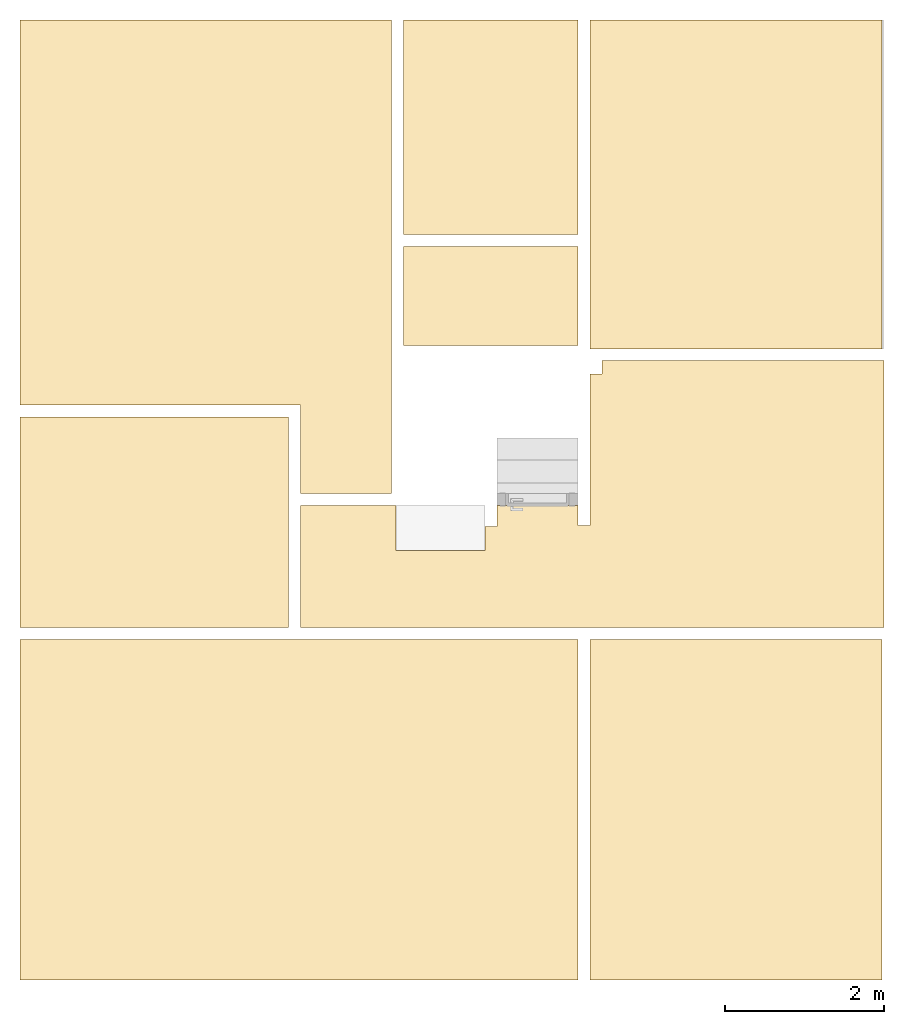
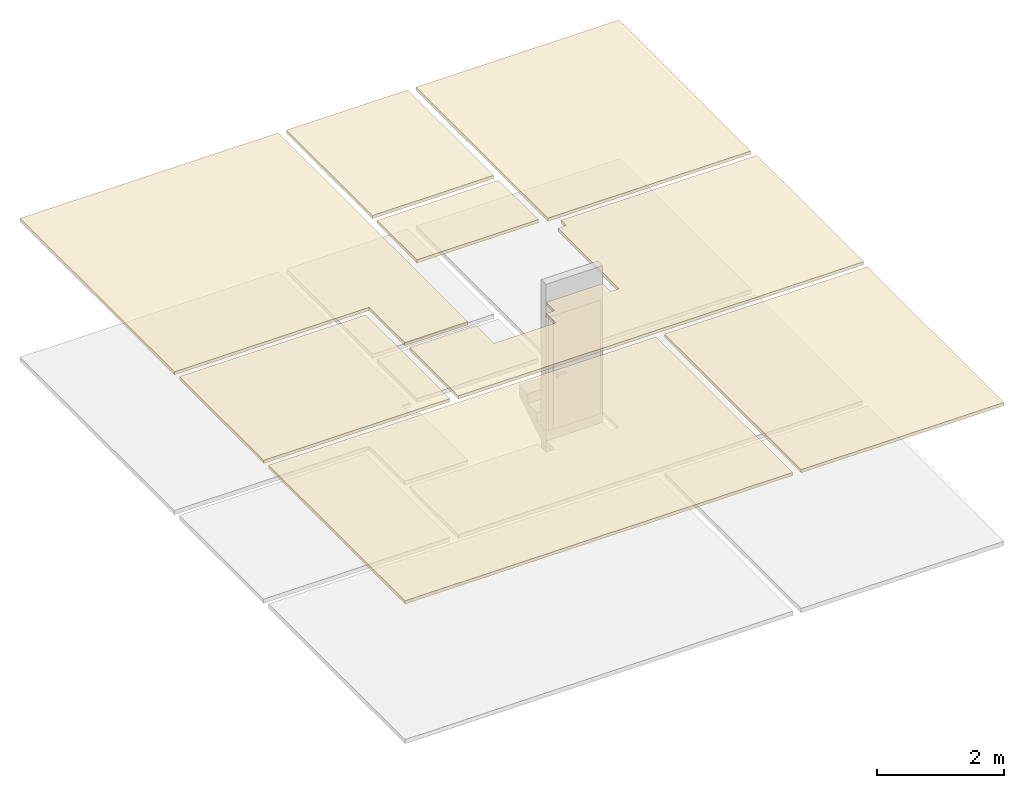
# One storey, part 3 of 3: 8 coverings.
"""IFC2X3 building model written with IfcOpenShell, lengths in metres."""

from ifc_helpers import new_model, entity, si_unit, converted_unit, derived_unit, direction, frame, frame_2d, origin, origin_2d_with_axis, place, context, subcontext, project, spatial, polyline, rectangle, outline, extrude, material, layer, layer_set, layer_usage, element, save


model = new_model("IFC2X3")

# Units and contexts
model_context = context("Model", 3, precision=1e-05, world=origin(), true_north=direction((6.12303176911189e-17, 1.0)))
context_of_model = context(None, 3, precision=1e-05, world=origin(), true_north=direction((6.12303176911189e-17, 1.0)))
body_context = subcontext(model_context, "Body", "Model", "MODEL_VIEW")
ifc_project = project(units=[si_unit("LENGTHUNIT", "METRE"), si_unit("AREAUNIT", "SQUARE_METRE"), si_unit("VOLUMEUNIT", "CUBIC_METRE"), converted_unit("PLANEANGLEUNIT", "DEGREE", entity("IfcRatioMeasure", 0.0174532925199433), si_unit("PLANEANGLEUNIT", "RADIAN"), dimensions=[0, 0, 0, 0, 0, 0, 0]), si_unit("MASSUNIT", "GRAM", prefix="KILO"), si_unit("TIMEUNIT", "SECOND"), si_unit("FREQUENCYUNIT", "HERTZ"), si_unit("THERMODYNAMICTEMPERATUREUNIT", "DEGREE_CELSIUS"), derived_unit("THERMALTRANSMITTANCEUNIT", [(si_unit("MASSUNIT", "GRAM", prefix="KILO"), 1), (si_unit("THERMODYNAMICTEMPERATUREUNIT", "KELVIN"), -1), (si_unit("TIMEUNIT", "SECOND"), -3)]), derived_unit("VOLUMETRICFLOWRATEUNIT", [(si_unit("LENGTHUNIT", "METRE"), 3), (si_unit("TIMEUNIT", "SECOND"), -1)]), si_unit("ELECTRICCURRENTUNIT", "AMPERE"), si_unit("ELECTRICVOLTAGEUNIT", "VOLT"), si_unit("POWERUNIT", "WATT"), si_unit("FORCEUNIT", "NEWTON", prefix="KILO"), si_unit("ILLUMINANCEUNIT", "LUX"), si_unit("LUMINOUSFLUXUNIT", "LUMEN"), si_unit("LUMINOUSINTENSITYUNIT", "CANDELA"), si_unit("PRESSUREUNIT", "PASCAL")], contexts=[model_context, context_of_model])

# Site, building, storey
site_placement = place(None, origin())
site = spatial("IfcSite", under=ifc_project, at=site_placement, Name="Default", CompositionType="ELEMENT")
building_placement = place(site_placement, origin())
building = spatial("IfcBuilding", under=site, at=building_placement, CompositionType="ELEMENT")
storey_placement = place(building_placement, frame((0.0, 0.0, 3.53)))
storey = spatial("IfcBuildingStorey", under=building, at=storey_placement, Name="02.AR.PLANTA PRIMERA ACAB. SUELO", CompositionType="ELEMENT", Elevation=3.53)

# Coverings
ifc_material_1 = material(Name="Metal - Perfiles de acero galvanizado")
ifc_layer_1 = layer(ifc_material_1, 0.045)
ifc_material_2 = material(Name="Placa de yeso laminado")
ifc_layer_2 = layer(ifc_material_2, 0.015)
ifc_layer_set = layer_set([ifc_layer_1, ifc_layer_2], Name="Techo compuesto:Falso techo continuo de placa de yeso laminado")
ifc_layer_usage_1 = layer_usage(ifc_layer_set, "AXIS3", "NEGATIVE", 0.0)
covering_1_placement = place(storey_placement, origin())
element("IfcCovering", 1, at=covering_1_placement, inside=storey, material=ifc_layer_usage_1, Name="Techo compuesto:Falso techo continuo de placa de yeso laminado", ObjectType="Techo compuesto:Falso techo continuo de placa de yeso laminado", PredefinedType="CEILING", context=body_context, shape_type="SweptSolid", body=[
    extrude(outline(polyline([(-2.7366666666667, 1.24546519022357), (-2.73666666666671, -3.60599146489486), (1.94333333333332, -3.60599146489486), (1.94333333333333, 2.36052627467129), (0.793333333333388, 2.36052627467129), (0.793333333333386, 1.24546519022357), (-2.7366666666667, 1.24546519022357)])), frame((7.12166666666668, 9.30052627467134, 2.6), z_axis=(0.0, 0.0, -1.0), x_axis=(1.0, 0.0, 0.0)), (0.0, 0.0, -1.0), 0.0600000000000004),
])
ifc_layer_usage_2 = layer_usage(ifc_layer_set, "AXIS3", "NEGATIVE", 0.0)
covering_2_placement = place(storey_placement, origin())
element("IfcCovering", 2, at=covering_2_placement, inside=storey, material=ifc_layer_usage_2, Name="Techo compuesto:Falso techo continuo de placa de yeso laminado", ObjectType="Techo compuesto:Falso techo continuo de placa de yeso laminado", PredefinedType="CEILING", context=body_context, shape_type="SweptSolid", body=[
    extrude(rectangle(XDim=2.19999999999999, YDim=2.70151773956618, at=frame_2d((-1.11022302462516e-15, 0.0), x_axis=(1.0, 0.0))), frame((10.315, 11.5557588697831, 2.6)), (0.0, 0.0, 1.0), 0.0600000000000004),
])
ifc_layer_usage_3 = layer_usage(ifc_layer_set, "AXIS3", "NEGATIVE", 0.0)
covering_3_placement = place(storey_placement, origin())
element("IfcCovering", 3, at=covering_3_placement, inside=storey, material=ifc_layer_usage_3, Name="Techo compuesto:Falso techo continuo de placa de yeso laminado", ObjectType="Techo compuesto:Falso techo continuo de placa de yeso laminado", PredefinedType="CEILING", context=body_context, shape_type="SweptSolid", body=[
    extrude(rectangle(XDim=1.24999999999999, YDim=2.19999999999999, at=origin_2d_with_axis()), frame((10.315, 9.43000000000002, 2.6), z_axis=(0.0, 0.0, 1.0), x_axis=(0.0, 1.0, 0.0)), (0.0, 0.0, 1.0), 0.0600000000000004),
])
ifc_layer_usage_4 = layer_usage(ifc_layer_set, "AXIS3", "NEGATIVE", 0.0)
covering_4_placement = place(storey_placement, origin())
element("IfcCovering", 4, at=covering_4_placement, inside=storey, material=ifc_layer_usage_4, Name="Techo compuesto:Falso techo continuo de placa de yeso laminado", ObjectType="Techo compuesto:Falso techo continuo de placa de yeso laminado", PredefinedType="CEILING", context=body_context, shape_type="SweptSolid", body=[
    extrude(rectangle(XDim=4.29006108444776, YDim=3.68000000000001, at=frame_2d((-2.22044604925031e-16, -2.22044604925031e-15), x_axis=(1.0, 0.0))), frame((13.405, 2.96003054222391, 2.6), z_axis=(0.0, 0.0, 1.0), x_axis=(0.0, 1.0, 0.0)), (0.0, 0.0, 1.0), 0.0600000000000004),
])
ifc_layer_usage_5 = layer_usage(ifc_layer_set, "AXIS3", "NEGATIVE", 0.0)
covering_5_placement = place(storey_placement, origin())
element("IfcCovering", 5, at=covering_5_placement, inside=storey, material=ifc_layer_usage_5, Name="Techo compuesto:Falso techo continuo de placa de yeso laminado", ObjectType="Techo compuesto:Falso techo continuo de placa de yeso laminado", PredefinedType="CEILING", context=body_context, shape_type="SweptSolid", body=[
    extrude(rectangle(XDim=4.29006108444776, YDim=7.03000000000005, at=frame_2d((4.44089209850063e-16, -1.11022302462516e-15), x_axis=(1.0, 0.0))), frame((7.89999999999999, 2.96003054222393, 2.6), z_axis=(0.0, 0.0, 1.0), x_axis=(0.0, 1.0, 0.0)), (0.0, 0.0, 1.0), 0.0600000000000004),
])
ifc_layer_usage_6 = layer_usage(ifc_layer_set, "AXIS3", "NEGATIVE", 0.0)
covering_6_placement = place(storey_placement, origin())
element("IfcCovering", 6, at=covering_6_placement, inside=storey, material=ifc_layer_usage_6, Name="Techo compuesto:Falso techo continuo de placa de yeso laminado", ObjectType="Techo compuesto:Falso techo continuo de placa de yeso laminado", PredefinedType="CEILING", context=body_context, shape_type="SweptSolid", body=[
    extrude(rectangle(XDim=3.38000000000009, YDim=2.64999999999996, at=frame_2d((-1.11022302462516e-15, -5.55111512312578e-16), x_axis=(1.0, 0.0))), frame((6.07500000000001, 6.5800610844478, 2.6)), (0.0, 0.0, 1.0), 0.0600000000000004),
])
ifc_layer_usage_7 = layer_usage(ifc_layer_set, "AXIS3", "NEGATIVE", 0.0)
covering_7_placement = place(storey_placement, origin())
element("IfcCovering", 7, at=covering_7_placement, inside=storey, material=ifc_layer_usage_7, Name="Techo compuesto:Falso techo continuo de placa de yeso laminado", ObjectType="Techo compuesto:Falso techo continuo de placa de yeso laminado", PredefinedType="CEILING", context=body_context, shape_type="SweptSolid", body=[
    extrude(outline(polyline([(-0.673641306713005, 1.83312499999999), (-0.108770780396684, 1.83312499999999), (-0.108641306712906, 3.03812499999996), (-1.64358022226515, 3.03812499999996), (-1.64358022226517, -4.31187499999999), (1.71635869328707, -4.311875), (1.71635869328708, -0.761875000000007), (1.55135869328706, -0.761875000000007), (1.55135869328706, -0.611874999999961), (-0.358641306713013, -0.611874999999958), (-0.358641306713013, -0.461874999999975), (-0.109506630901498, -0.461874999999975), (-0.109507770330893, 0.563124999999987), (-0.373641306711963, 0.563124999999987), (-0.373641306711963, 0.713124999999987), (-0.673641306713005, 0.713124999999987), (-0.673641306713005, 1.83312499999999)])), frame((10.953125, 6.89864130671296, 2.6), z_axis=(0.0, 0.0, 1.0), x_axis=(0.0, 1.0, 0.0)), (0.0, 0.0, 1.0), 0.0600000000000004),
])
ifc_layer_usage_8 = layer_usage(ifc_layer_set, "AXIS3", "NEGATIVE", 0.0)
covering_8_placement = place(storey_placement, origin())
element("IfcCovering", 8, at=covering_8_placement, inside=storey, material=ifc_layer_usage_8, Name="Techo compuesto:Falso techo continuo de placa de yeso laminado", ObjectType="Techo compuesto:Falso techo continuo de placa de yeso laminado", PredefinedType="CEILING", context=body_context, shape_type="SweptSolid", body=[
    extrude(rectangle(XDim=3.68000000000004, YDim=4.14151773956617, at=frame_2d((-1.11022302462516e-15, 6.66133814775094e-16), x_axis=(1.0, 0.0))), frame((13.405, 10.8357588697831, 2.6), z_axis=(0.0, 0.0, 1.0), x_axis=(-1.0, 0.0, 0.0)), (0.0, 0.0, 1.0), 0.0600000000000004),
])

save(model, "model.ifc")
